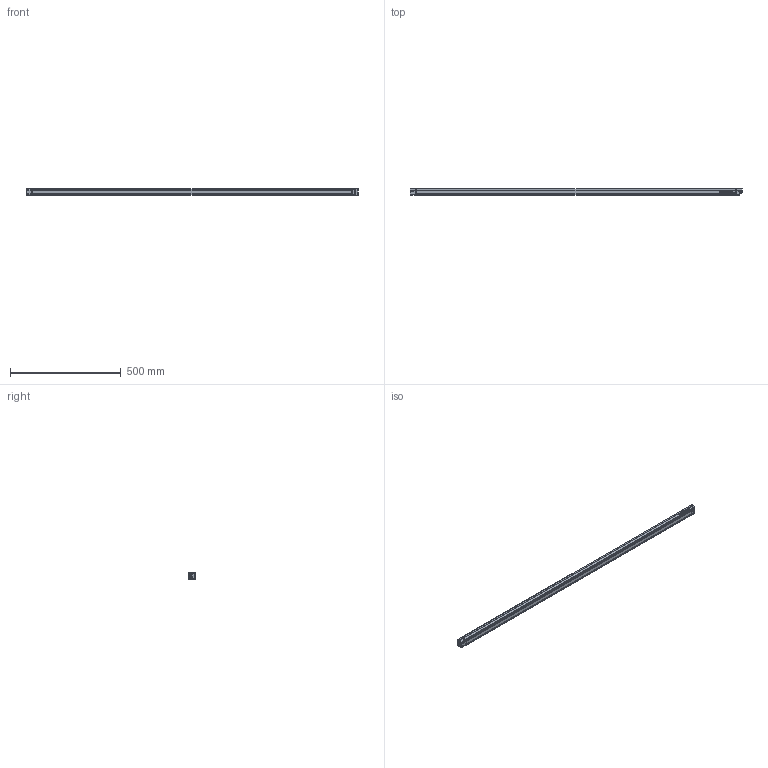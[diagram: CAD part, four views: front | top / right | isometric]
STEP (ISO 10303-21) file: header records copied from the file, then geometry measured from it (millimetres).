
FILE_DESCRIPTION((''),'2;1');
FILE_NAME('450L-B4XN1500YD','2017-04-01T',('SRao1'),('Rockwell Automation'),'PRO/ENGINEER BY PARAMETRIC TECHNOLOGY CORPORATION, 2012480','PRO/ENGINEER BY PARAMETRIC TECHNOLOGY CORPORATION, 2012480','');
FILE_SCHEMA(('CONFIG_CONTROL_DESIGN'));
Products named in the file (1): 450L-B4XN1500YD
Bounding box: 1500 x 30 x 30.2 mm (x, y, z)
Volume: 381490.2 mm3; surface area: 363788.9 mm2
Topology: 1 solids, 48 shells, 6488 faces, 17611 edges, 11637 vertices
Faces by surface type: plane 4913, cylinder 1316, bspline 139, cone 73, torus 26, sphere 21
Entity records: 209218 total; most frequent: CARTESIAN_POINT 44288, ORIENTED_EDGE 35200, DIRECTION 32470, EDGE_CURVE 17600, VECTOR 14502, LINE 14502, VERTEX_POINT 11645, AXIS2_PLACEMENT_3D 8984
